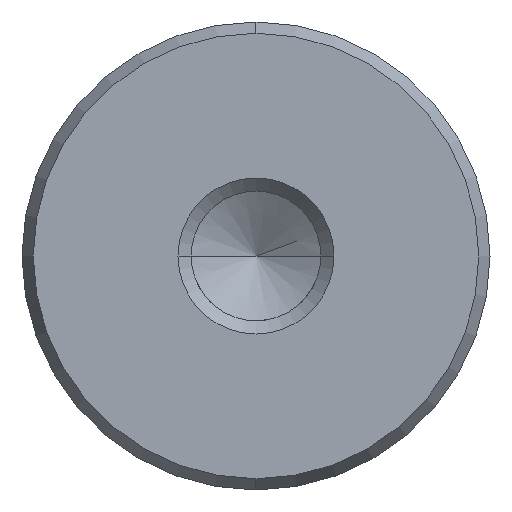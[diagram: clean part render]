
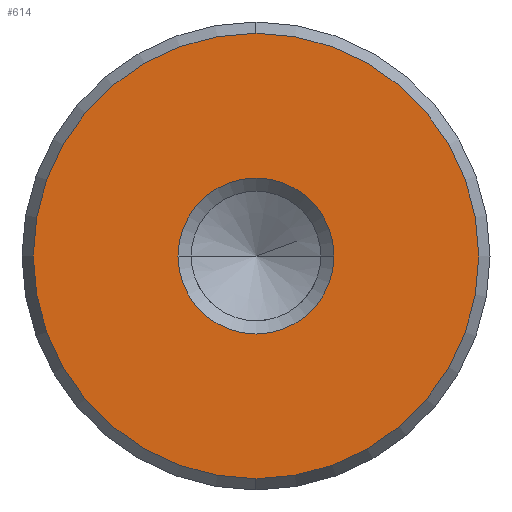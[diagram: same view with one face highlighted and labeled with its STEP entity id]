
A CAD part, left-side view. The second image highlights one B-rep face of the part: STEP entity #614.
In plain terms, the highlighted planar face has unit normal (-1, 0, 0).
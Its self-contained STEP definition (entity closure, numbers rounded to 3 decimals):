
#528=CARTESIAN_POINT('Vertex',(0.,0.,-11.423)) ;
#531=CARTESIAN_POINT('Axis2P3D Location',(0.,0.,0.)) ;
#535=CARTESIAN_POINT('Vertex',(0.,11.423,0.)) ;
#538=CARTESIAN_POINT('Axis2P3D Location',(0.,0.,0.)) ;
#542=CARTESIAN_POINT('Vertex',(0.,0.,11.423)) ;
#564=CARTESIAN_POINT('Axis2P3D Location',(0.,0.,0.)) ;
#568=CARTESIAN_POINT('Vertex',(0.,-11.423,0.)) ;
#571=CARTESIAN_POINT('Axis2P3D Location',(0.,0.,0.)) ;
#585=CARTESIAN_POINT('Axis2P3D Location',(0.,0.,0.)) ;
#596=CARTESIAN_POINT('Axis2P3D Location',(0.,0.,0.)) ;
#600=CARTESIAN_POINT('Vertex',(0.,4.,0.)) ;
#602=CARTESIAN_POINT('Vertex',(0.,-4.,0.)) ;
#605=CARTESIAN_POINT('Axis2P3D Location',(0.,0.,0.)) ;
#532=DIRECTION('Axis2P3D Direction',(1.,0.,-0.)) ;
#539=DIRECTION('Axis2P3D Direction',(1.,0.,-0.)) ;
#565=DIRECTION('Axis2P3D Direction',(1.,0.,-0.)) ;
#572=DIRECTION('Axis2P3D Direction',(1.,0.,-0.)) ;
#586=DIRECTION('Axis2P3D Direction',(1.,0.,-0.)) ;
#587=DIRECTION('Axis2P3D XDirection',(-0.,0.,-1.)) ;
#597=DIRECTION('Axis2P3D Direction',(1.,0.,-0.)) ;
#606=DIRECTION('Axis2P3D Direction',(1.,0.,-0.)) ;
#533=AXIS2_PLACEMENT_3D('Circle Axis2P3D',#531,#532,$) ;
#540=AXIS2_PLACEMENT_3D('Circle Axis2P3D',#538,#539,$) ;
#566=AXIS2_PLACEMENT_3D('Circle Axis2P3D',#564,#565,$) ;
#573=AXIS2_PLACEMENT_3D('Circle Axis2P3D',#571,#572,$) ;
#588=AXIS2_PLACEMENT_3D('Plane Axis2P3D',#585,#586,#587) ;
#598=AXIS2_PLACEMENT_3D('Circle Axis2P3D',#596,#597,$) ;
#607=AXIS2_PLACEMENT_3D('Circle Axis2P3D',#605,#606,$) ;
#591=ORIENTED_EDGE('',*,*,#537,.F.) ;
#592=ORIENTED_EDGE('',*,*,#575,.F.) ;
#593=ORIENTED_EDGE('',*,*,#570,.F.) ;
#594=ORIENTED_EDGE('',*,*,#544,.F.) ;
#611=ORIENTED_EDGE('',*,*,#604,.T.) ;
#612=ORIENTED_EDGE('',*,*,#609,.T.) ;
#613=FACE_BOUND('',#610,.T.) ;
#614=ADVANCED_FACE('720-24x180',(#595,#613),#589,.F.) ;
#534=CIRCLE('generated circle',#533,11.423) ;
#541=CIRCLE('generated circle',#540,11.423) ;
#567=CIRCLE('generated circle',#566,11.423) ;
#574=CIRCLE('generated circle',#573,11.423) ;
#599=CIRCLE('generated circle',#598,4.) ;
#608=CIRCLE('generated circle',#607,4.) ;
#537=EDGE_CURVE('',#529,#536,#534,.T.) ;
#544=EDGE_CURVE('',#536,#543,#541,.T.) ;
#570=EDGE_CURVE('',#543,#569,#567,.T.) ;
#575=EDGE_CURVE('',#569,#529,#574,.T.) ;
#604=EDGE_CURVE('',#601,#603,#599,.T.) ;
#609=EDGE_CURVE('',#603,#601,#608,.T.) ;
#590=EDGE_LOOP('',(#591,#592,#593,#594)) ;
#610=EDGE_LOOP('',(#611,#612)) ;
#595=FACE_OUTER_BOUND('',#590,.T.) ;
#589=PLANE('Plane',#588) ;
#529=VERTEX_POINT('',#528) ;
#536=VERTEX_POINT('',#535) ;
#543=VERTEX_POINT('',#542) ;
#569=VERTEX_POINT('',#568) ;
#601=VERTEX_POINT('',#600) ;
#603=VERTEX_POINT('',#602) ;
